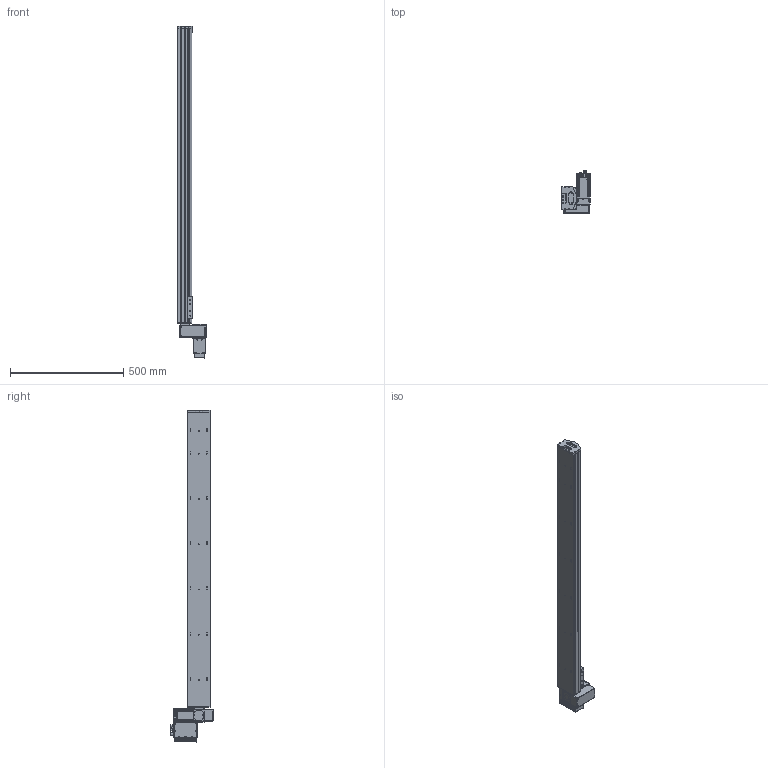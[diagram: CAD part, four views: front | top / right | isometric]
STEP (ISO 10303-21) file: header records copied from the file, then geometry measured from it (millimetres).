
FILE_DESCRIPTION (( 'STEP AP203' ), '1' );
FILE_NAME ('S10 TBN LT S1300.STEP', '2012-06-19T12:57:08', ( 'Conseil Régional Haute-Normandie' ), ( 'Conseil Régional Haute-Normandie' ), 'SwSTEP 2.0', 'SolidWorks 2010', '' );
FILE_SCHEMA (( 'CONFIG_CONTROL_DESIGN' ));
Products named in the file (25): plaque de bout s10_Default; Plaque racord_Default; T_X2_00F4_X0_le contre le moteur_5; BU41 Carte Alimentation P05_3; Colonnette_3; Connecteur rond D12 4cts_5; Connecteur rond D10 3cts_5; T_X2_00F4_X0_le lat_X2_00E9_X0_rale_5; Vis TF 3 torkx_1_1; S10 TBN LT S1300; cache t皻e axe_Default; embout; palette tbn; renvoi LH_Default; axe 1300; cache t皻e_Default; Assem1_7; BU45 Carte d''axe A11_5; Moteur 60BLDC90A_3; Couvercle_3; T_X2_00F4_X0_le fond_3; Sub D 9cts 90_X2_00B_X0__3; Radiateur profil_X2_00E9_X0_ 100x25_3; Colonnette ronde_3; T_X2_00F4_X0_le Arri_X2_00E8_X0_re_5
Assembly tree (48 placements, depth 3):
  S10 TBN LT S1300
    cache t皻e_Default  x2
    cache t皻e axe_Default
    renvoi LH_Default
    Assem1_7
      Vis TF 3 torkx_1_1  x21
      Sub D 9cts 90_X2_00B_X0__3
      Colonnette ronde_3
      Connecteur rond D10 3cts_5  x2
      T_X2_00F4_X0_le lat_X2_00E9_X0_rale_5  x2
      Colonnette_3  x2
      BU41 Carte Alimentation P05_3
      BU45 Carte d''axe A11_5
      Moteur 60BLDC90A_3
      T_X2_00F4_X0_le fond_3
      Connecteur rond D12 4cts_5
      T_X2_00F4_X0_le Arri_X2_00E8_X0_re_5
      T_X2_00F4_X0_le contre le moteur_5
      Couvercle_3
      Radiateur profil_X2_00E9_X0_ 100x25_3
    axe 1300
    Plaque racord_Default
    palette tbn
    plaque de bout s10_Default
    embout
Bounding box: 127 x 186.1 x 1466.5 mm (x, y, z)
Volume: 7615551.3 mm3; surface area: 940030.3 mm2
Topology: 47 solids, 47 shells, 1972 faces, 5024 edges, 3267 vertices
Faces by surface type: cylinder 928, plane 875, cone 154, bspline 12, torus 3
Entity records: 44587 total; most frequent: CARTESIAN_POINT 8075, DIRECTION 7285, ORIENTED_EDGE 6628, EDGE_CURVE 3314, AXIS2_PLACEMENT_3D 2716, VERTEX_POINT 2171, LINE 1853, VECTOR 1853
